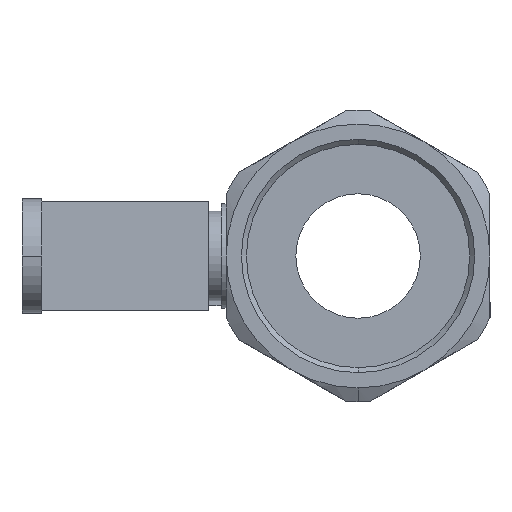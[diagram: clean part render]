
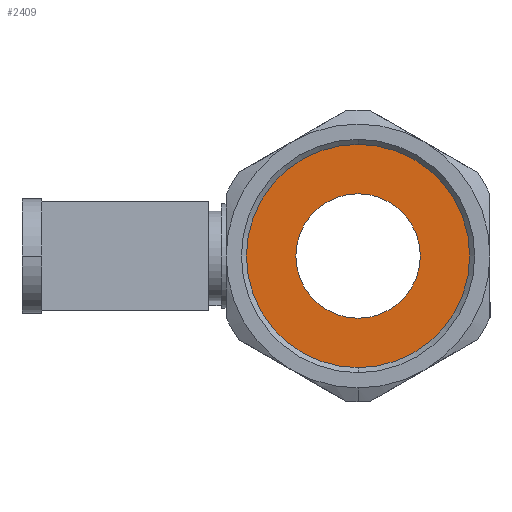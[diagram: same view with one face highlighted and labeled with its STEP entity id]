
A CAD part, left-side view. The second image highlights one B-rep face of the part: STEP entity #2409.
In plain terms, the highlighted planar face has unit normal (-1, 0, 0).
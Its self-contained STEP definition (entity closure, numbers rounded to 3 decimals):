
#20 = CARTESIAN_POINT ( 'NONE',  ( -21.5, 22.425, 0. ) ) ;
#75 = DIRECTION ( 'NONE',  ( 0., 0., 1. ) ) ;
#86 = AXIS2_PLACEMENT_3D ( 'NONE', #2995, #1299, #3286 ) ;
#177 = EDGE_CURVE ( 'NONE', #2120, #2212, #2637, .T. ) ;
#250 = DIRECTION ( 'NONE',  ( -1., 0., 0. ) ) ;
#295 = EDGE_LOOP ( 'NONE', ( #3036, #1678 ) ) ;
#297 = AXIS2_PLACEMENT_3D ( 'NONE', #1975, #250, #2261 ) ;
#319 = ORIENTED_EDGE ( 'NONE', *, *, #1021, .F. ) ;
#334 = DIRECTION ( 'NONE',  ( 0., 0., 1. ) ) ;
#346 = VERTEX_POINT ( 'NONE', #2764 ) ;
#539 = FACE_BOUND ( 'NONE', #2971, .T. ) ;
#890 = DIRECTION ( 'NONE',  ( 0., 0., -1. ) ) ;
#904 = AXIS2_PLACEMENT_3D ( 'NONE', #20, #2595, #890 ) ;
#1006 = ORIENTED_EDGE ( 'NONE', *, *, #1784, .F. ) ;
#1021 = EDGE_CURVE ( 'NONE', #3278, #346, #3729, .T. ) ;
#1125 = CARTESIAN_POINT ( 'NONE',  ( -21.5, 0., 0. ) ) ;
#1299 = DIRECTION ( 'NONE',  ( -1., 0., 0. ) ) ;
#1641 = EDGE_CURVE ( 'NONE', #2212, #2120, #2589, .T. ) ;
#1678 = ORIENTED_EDGE ( 'NONE', *, *, #1641, .T. ) ;
#1784 = EDGE_CURVE ( 'NONE', #346, #3278, #2998, .T. ) ;
#1798 = DIRECTION ( 'NONE',  ( -1., 0., 0. ) ) ;
#1975 = CARTESIAN_POINT ( 'NONE',  ( -21.5, 0., 0. ) ) ;
#2120 = VERTEX_POINT ( 'NONE', #3462 ) ;
#2165 = CARTESIAN_POINT ( 'NONE',  ( -21.5, 0., 12.5 ) ) ;
#2212 = VERTEX_POINT ( 'NONE', #3223 ) ;
#2261 = DIRECTION ( 'NONE',  ( 0., 0., 1. ) ) ;
#2409 = ADVANCED_FACE ( 'NONE', ( #539, #3483 ), #2880, .F. ) ;
#2466 = AXIS2_PLACEMENT_3D ( 'NONE', #3508, #1798, #75 ) ;
#2589 = CIRCLE ( 'NONE', #2466, 22.425 ) ;
#2590 = DIRECTION ( 'NONE',  ( -1., 0., 0. ) ) ;
#2595 = DIRECTION ( 'NONE',  ( 1., 0., 0. ) ) ;
#2637 = CIRCLE ( 'NONE', #3665, 22.425 ) ;
#2764 = CARTESIAN_POINT ( 'NONE',  ( -21.5, 0., -12.5 ) ) ;
#2880 = PLANE ( 'NONE',  #904 ) ;
#2971 = EDGE_LOOP ( 'NONE', ( #319, #1006 ) ) ;
#2995 = CARTESIAN_POINT ( 'NONE',  ( -21.5, 0., 0. ) ) ;
#2998 = CIRCLE ( 'NONE', #86, 12.5 ) ;
#3036 = ORIENTED_EDGE ( 'NONE', *, *, #177, .T. ) ;
#3223 = CARTESIAN_POINT ( 'NONE',  ( -21.5, 0., -22.425 ) ) ;
#3278 = VERTEX_POINT ( 'NONE', #2165 ) ;
#3286 = DIRECTION ( 'NONE',  ( 0., 0., 1. ) ) ;
#3462 = CARTESIAN_POINT ( 'NONE',  ( -21.5, 0., 22.425 ) ) ;
#3483 = FACE_OUTER_BOUND ( 'NONE', #295, .T. ) ;
#3508 = CARTESIAN_POINT ( 'NONE',  ( -21.5, 0., 0. ) ) ;
#3665 = AXIS2_PLACEMENT_3D ( 'NONE', #1125, #2590, #334 ) ;
#3729 = CIRCLE ( 'NONE', #297, 12.5 ) ;
